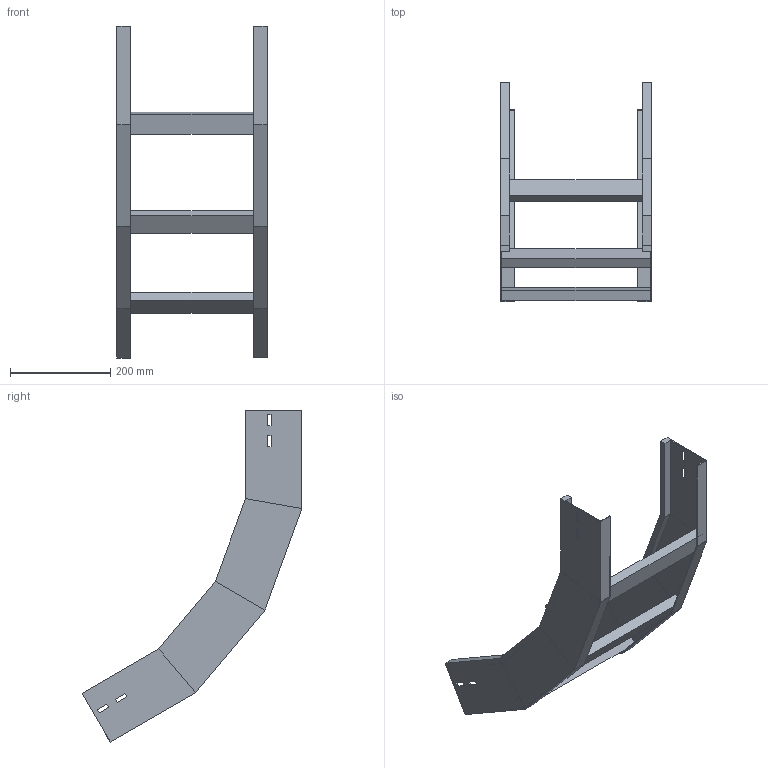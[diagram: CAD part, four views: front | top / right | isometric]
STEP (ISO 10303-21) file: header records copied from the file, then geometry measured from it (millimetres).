
FILE_DESCRIPTION (( 'STEP AP214' ), '1' );
FILE_NAME ('A2X40B5J300XX.step', '2025-03-20T10:14:37', ( '' ), ( '' ), 'SwSTEP 2.0', 'SolidWorks 2023', '' );
FILE_SCHEMA (( 'AUTOMOTIVE_DESIGN' ));
Length unit declared in the file: millimetre
Products named in the file (3): TRAVERSINO_300; LONGH.SALITA_60°_H112.5_R500; A2X40B5J300XX
Assembly tree (5 placements, depth 2):
  A2X40B5J300XX
    LONGH.SALITA_60°_H112.5_R500  x2
    TRAVERSINO_300  x3
Bounding box: 300 x 438.74 x 662.49 mm (x, y, z)
Volume: 1416466.9 mm3; surface area: 590719.8 mm2
Topology: 5 solids, 5 shells, 118 faces, 276 edges, 168 vertices
Faces by surface type: plane 118
Entity records: 1672 total; most frequent: CARTESIAN_POINT 276, ORIENTED_EDGE 264, DIRECTION 260, EDGE_CURVE 132, VECTOR 132, LINE 132, VERTEX_POINT 80, AXIS2_PLACEMENT_3D 64
